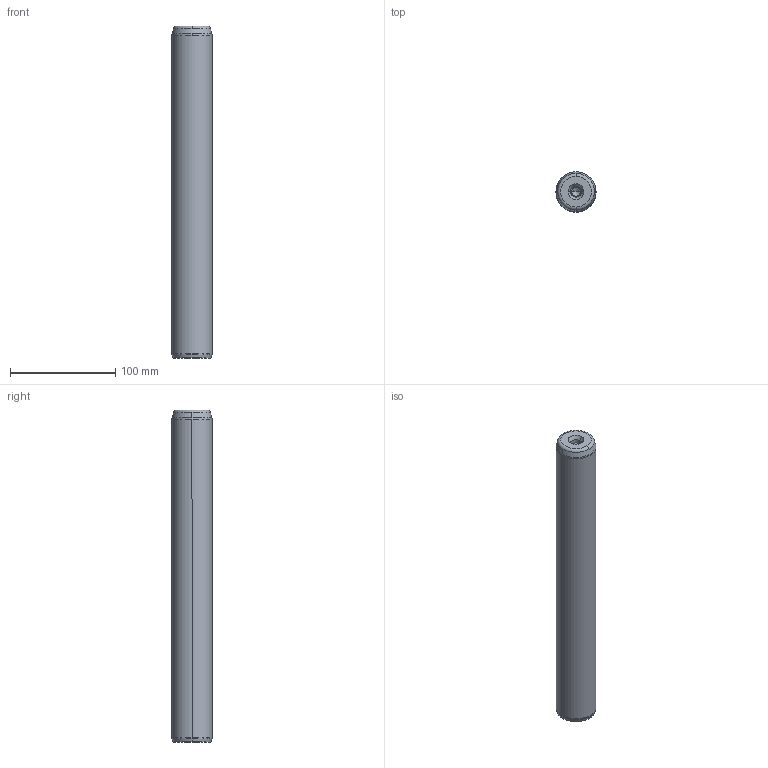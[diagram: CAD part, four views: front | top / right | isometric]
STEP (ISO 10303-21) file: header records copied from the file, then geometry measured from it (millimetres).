
FILE_DESCRIPTION((''),'2;1');
FILE_NAME('P10_038_315.stp','2008-12-23T15:15:51',(''),(''),'Mechanical Desktop 2009','Mechanical Desktop 2009',', , ');
FILE_SCHEMA(('CONFIG_CONTROL_DESIGN'));
Length unit declared in the file: millimetre
Products named in the file (5): Product; ProductAA; blmdl1; ProductA; blmdl1A
Assembly tree (2 placements, depth 3):
  Product
    ProductAA
      blmdl1
  ProductA
  blmdl1A
Bounding box: 38 x 38 x 315 mm (x, y, z)
Volume: 353813 mm3; surface area: 40225.2 mm2
Topology: 1 solids, 1 shells, 26 faces, 66 edges, 41 vertices
Faces by surface type: cone 10, torus 8, cylinder 6, plane 2
Entity records: 1012 total; most frequent: DIRECTION 170, CARTESIAN_POINT 134, ORIENTED_EDGE 128, AXIS2_PLACEMENT_3D 77, EDGE_CURVE 64, CIRCLE 48, VERTEX_POINT 41, EDGE_LOOP 27
